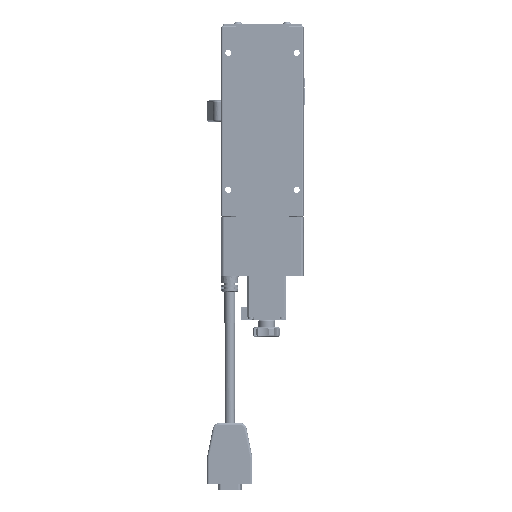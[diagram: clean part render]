
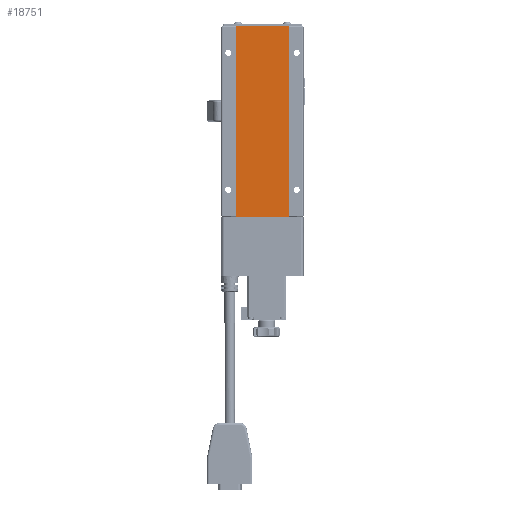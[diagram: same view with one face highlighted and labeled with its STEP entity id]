
A CAD part, front view. The second image highlights one B-rep face of the part: STEP entity #18751.
In plain terms, the highlighted planar face has unit normal (0, -1, 0).
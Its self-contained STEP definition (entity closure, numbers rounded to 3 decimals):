
#18751 = ADVANCED_FACE ( 'NONE', ( #117229 ), #265435, .F. ) ;
#20398 = CARTESIAN_POINT ( 'NONE',  ( 19.3, -10.95, 69.8 ) ) ;
#20418 = DIRECTION ( 'NONE',  ( 1., 0., 0. ) ) ;
#21706 = CARTESIAN_POINT ( 'NONE',  ( -19.3, -10.95, 69.8 ) ) ;
#23737 = EDGE_CURVE ( 'NONE', #275403, #225958, #111616, .T. ) ;
#25388 = ORIENTED_EDGE ( 'NONE', *, *, #129560, .T. ) ;
#41429 = DIRECTION ( 'NONE',  ( 0., 1., 0. ) ) ;
#44031 = ORIENTED_EDGE ( 'NONE', *, *, #23737, .T. ) ;
#49255 = VERTEX_POINT ( 'NONE', #49853 ) ;
#49853 = CARTESIAN_POINT ( 'NONE',  ( -19.3, -10.95, 69.8 ) ) ;
#52170 = CARTESIAN_POINT ( 'NONE',  ( 19.3, -10.95, 69.8 ) ) ;
#71636 = CARTESIAN_POINT ( 'NONE',  ( -19.3, -10.95, -69.8 ) ) ;
#72709 = CARTESIAN_POINT ( 'NONE',  ( 19.3, -10.95, 23.267 ) ) ;
#90164 = B_SPLINE_CURVE_WITH_KNOTS ( 'NONE', 3,
 ( #166843, #139453, #163674, #71636 ),
 .UNSPECIFIED., .F., .F.,
 ( 4, 4 ),
 ( 0., 1. ),
 .UNSPECIFIED. ) ;
#104600 = B_SPLINE_CURVE_WITH_KNOTS ( 'NONE', 3,
 ( #52170, #219980, #170030, #21706 ),
 .UNSPECIFIED., .F., .F.,
 ( 4, 4 ),
 ( 0., 1. ),
 .UNSPECIFIED. ) ;
#111616 = B_SPLINE_CURVE_WITH_KNOTS ( 'NONE', 3,
 ( #295354, #266512, #150301, #224446 ),
 .UNSPECIFIED., .F., .F.,
 ( 4, 4 ),
 ( 0., 1. ),
 .UNSPECIFIED. ) ;
#117229 = FACE_OUTER_BOUND ( 'NONE', #146844, .T. ) ;
#123553 = VERTEX_POINT ( 'NONE', #20398 ) ;
#129560 = EDGE_CURVE ( 'NONE', #123553, #49255, #104600, .T. ) ;
#136214 = B_SPLINE_CURVE_WITH_KNOTS ( 'NONE', 3,
 ( #293540, #272591, #72709, #171082 ),
 .UNSPECIFIED., .F., .F.,
 ( 4, 4 ),
 ( 0., 1. ),
 .UNSPECIFIED. ) ;
#139453 = CARTESIAN_POINT ( 'NONE',  ( -19.3, -10.95, 23.267 ) ) ;
#146844 = EDGE_LOOP ( 'NONE', ( #25388, #268584, #44031, #219924 ) ) ;
#150301 = CARTESIAN_POINT ( 'NONE',  ( 6.433, -10.95, -69.8 ) ) ;
#152905 = EDGE_CURVE ( 'NONE', #225958, #123553, #136214, .T. ) ;
#163674 = CARTESIAN_POINT ( 'NONE',  ( -19.3, -10.95, -23.267 ) ) ;
#166843 = CARTESIAN_POINT ( 'NONE',  ( -19.3, -10.95, 69.8 ) ) ;
#170030 = CARTESIAN_POINT ( 'NONE',  ( -6.433, -10.95, 69.8 ) ) ;
#171082 = CARTESIAN_POINT ( 'NONE',  ( 19.3, -10.95, 69.8 ) ) ;
#194554 = CARTESIAN_POINT ( 'NONE',  ( 19.3, -10.95, -69.8 ) ) ;
#213901 = CARTESIAN_POINT ( 'NONE',  ( 19.3, -10.95, -69.8 ) ) ;
#214984 = AXIS2_PLACEMENT_3D ( 'NONE', #213901, #41429, #20418 ) ;
#219924 = ORIENTED_EDGE ( 'NONE', *, *, #152905, .T. ) ;
#219980 = CARTESIAN_POINT ( 'NONE',  ( 6.433, -10.95, 69.8 ) ) ;
#224446 = CARTESIAN_POINT ( 'NONE',  ( 19.3, -10.95, -69.8 ) ) ;
#225958 = VERTEX_POINT ( 'NONE', #194554 ) ;
#234652 = EDGE_CURVE ( 'NONE', #49255, #275403, #90164, .T. ) ;
#238303 = CARTESIAN_POINT ( 'NONE',  ( -19.3, -10.95, -69.8 ) ) ;
#265435 = PLANE ( 'NONE',  #214984 ) ;
#266512 = CARTESIAN_POINT ( 'NONE',  ( -6.433, -10.95, -69.8 ) ) ;
#268584 = ORIENTED_EDGE ( 'NONE', *, *, #234652, .T. ) ;
#272591 = CARTESIAN_POINT ( 'NONE',  ( 19.3, -10.95, -23.267 ) ) ;
#275403 = VERTEX_POINT ( 'NONE', #238303 ) ;
#293540 = CARTESIAN_POINT ( 'NONE',  ( 19.3, -10.95, -69.8 ) ) ;
#295354 = CARTESIAN_POINT ( 'NONE',  ( -19.3, -10.95, -69.8 ) ) ;
